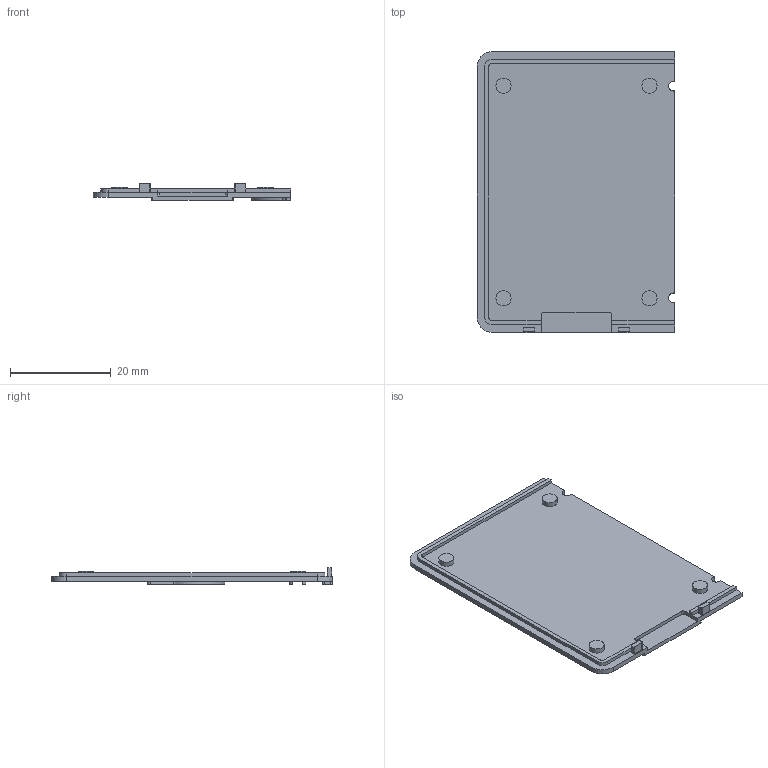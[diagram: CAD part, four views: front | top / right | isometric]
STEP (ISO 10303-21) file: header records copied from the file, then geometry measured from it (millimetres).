
FILE_DESCRIPTION(('Open CASCADE Model'),'2;1');
FILE_NAME('Open CASCADE Shape Model','2026-11-25T12:44:31',('Author'),( 'Open CASCADE'),'Open CASCADE STEP processor 7.9','Open CASCADE 7.9' ,'Unknown');
FILE_SCHEMA(('AUTOMOTIVE_DESIGN { 1 0 10303 214 1 1 1 1 }'));
Length unit declared in the file: millimetre
Products named in the file (1): Open CASCADE STEP translator 7.9 7
Bounding box: 39.2 x 55.8 x 3.35 mm (x, y, z)
Volume: 2283.7 mm3; surface area: 4846.7 mm2
Topology: 1 solids, 1 shells, 98 faces, 255 edges, 170 vertices
Faces by surface type: plane 58, cylinder 35, extrusion 5
Full cylindrical faces by diameter (mm): 1.1 x1, 1.4 x1, 3 x4
Entity records: 6578 total; most frequent: CARTESIAN_POINT 1472, DIRECTION 965, VECTOR 580, LINE 575, ORIENTED_EDGE 510, PCURVE 510, DEFINITIONAL_REPRESENTATION 510, EDGE_CURVE 255
